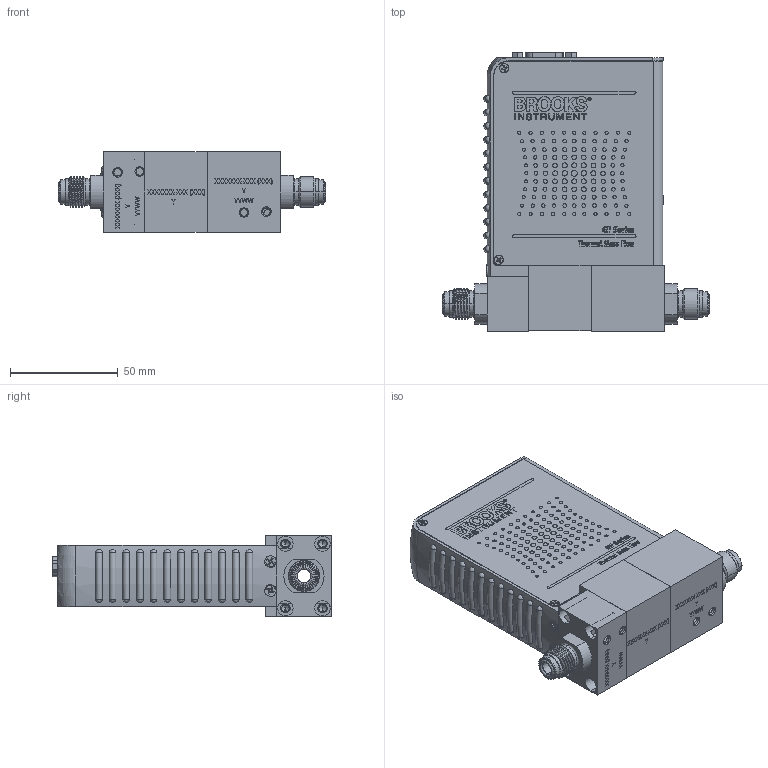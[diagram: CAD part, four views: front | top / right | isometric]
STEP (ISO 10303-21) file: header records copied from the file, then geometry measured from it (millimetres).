
FILE_DESCRIPTION (( 'STEP AP203' ), '1' );
FILE_NAME ('GF100-GF120-GF125-VX-TX.STEP', '2021-06-08T14:18:53', ( '' ), ( '' ), 'SwSTEP 2.0', 'SolidWorks 2020', '' );
FILE_SCHEMA (( 'CONFIG_CONTROL_DESIGN' ));
Products named in the file (1): GF100-GF120-GF125-VX-TX
Bounding box: 124.02 x 129.41 x 37.6 mm (x, y, z)
Volume: 77386.8 mm3; surface area: 87352.8 mm2
Topology: 189 solids, 189 shells, 3762 faces, 9542 edges, 6264 vertices
Faces by surface type: plane 2003, bspline 1096, cylinder 358, cone 240, torus 55, sphere 10
Entity records: 124651 total; most frequent: CARTESIAN_POINT 41322, ORIENTED_EDGE 19000, DIRECTION 13416, EDGE_CURVE 9500, VERTEX_POINT 6258, LINE 5864, VECTOR 5864, EDGE_LOOP 4056
